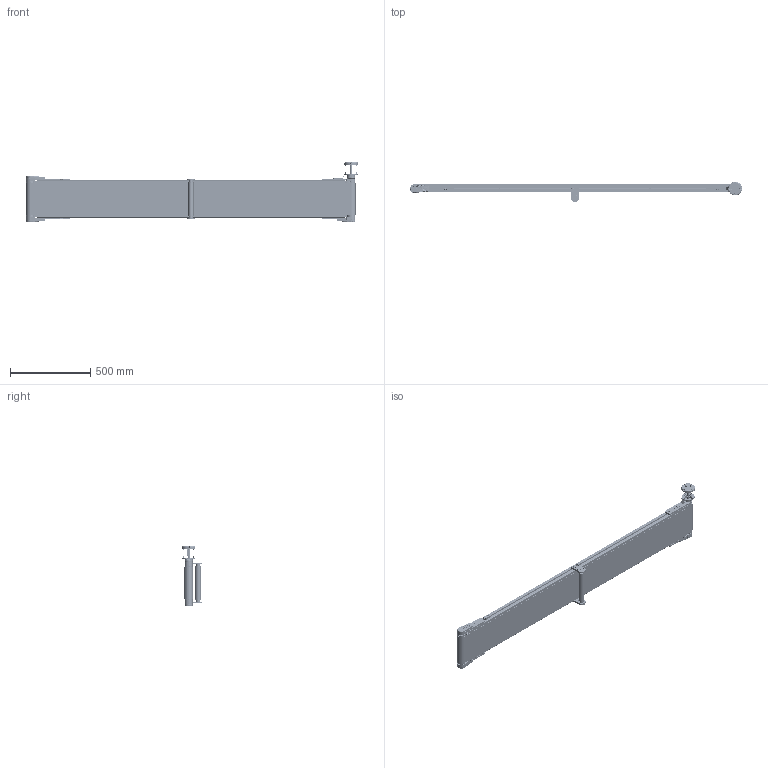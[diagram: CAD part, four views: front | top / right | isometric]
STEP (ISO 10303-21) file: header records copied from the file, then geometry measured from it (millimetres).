
FILE_DESCRIPTION (( 'STEP AP203' ), '1' );
FILE_NAME ('NASTRO_RETTILINEO_TAPPETO.step', '2026-06-05T08:06:31', ( 'Utente Windows' ), ( '' ), 'SwSTEP 2.0', 'SolidWorks 2024', '' );
FILE_SCHEMA (( 'CONFIG_CONTROL_DESIGN' ));
Length unit declared in the file: millimetre
Products named in the file (48): 084.303.001; 084.802.028; RONDELLE FASCIA LARGA UNI 6593_5.4x20 UNI 6593; 084.808.012; 084.810.001; 084.802.061; VITI TCEI UNI 5931_M6x12 UNI 5931; BLOCCO_RINVIO_50_STANDARD; VITI TCEI UNI 5931_M4x25 UNI 5931; RULLO_REGGITAPPETO; 084.811.001; VITE_DADO_M5X12; 084.802.014; 084.802.062; 084.807.002_084.807.002; VITI TSEI UNI 5933 INOX_0412UNI5933A2; LAMIERA_STANDARD; 084.807.003_084.807.003<A macchina>; 084.302.000 DADI ALUSIC 13x13-1_084.302.007; 084.802.017_084.802.017; 084.811.004; CHIAVETTE_A 5x5x20 UNI 6604-69; 084.802.065_Default<A macchina>; 084.302.000 DADI ALUSIC 13x13-1_084.302.004; BLOCCO_PERNO_50_30; 084.802.008; NASTRO_RETTILINEO_TAPPETO; 084.803.018; 14UNI7435; 084.301.000 VITI ALUSIC_084.301.003; 084.802.071; BLOCCO_TRAINO_50_STANDARD; BLOCCO_REGGITAPPETO; BLOCCO_TRAINO_50_STANDARD_30_DX; 0820ISO2342; 084.301.000 VITI ALUSIC_084.301.009; 084.302.000 DADI ALUSIC 13x13_084.302.004; TELAIO_50_STANDARD_Default<A macchina>; BLOCCO_BRACCIO_CH03P_VF30P; VITI TSEI UNI 5933_M4x10 UNI 5933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
Assembly tree (98 placements, depth 4):
  NASTRO_RETTILINEO_TAPPETO
    TAPPETO_STANDARD
    TELAIO_50_STANDARD_Default<A macchina>
    LAMIERA_STANDARD
    RULLO_50_Default<A macchina>  x2
    BLOCCO_PERNO_50_30
      084.810.001
      084.811.001
      RONDELLE FASCIA LARGA UNI 6593_5.4x20 UNI 6593
      084.301.000 VITI ALUSIC_084.301.009
      CHIAVETTE_A 5x5x40 UNI 6604-69
      CHIAVETTE_A 5x5x20 UNI 6604-69
      14UNI7435
    BLOCCO_TRAINO_50_STANDARD_30_DX
      084.807.003_084.807.003<A macchina>
      084.802.017_084.802.017
      084.301.000 VITI ALUSIC_084.301.003  x2
      084.302.000 DADI ALUSIC 13x13-1_084.302.004  x2
      BLOCCO_BRACCIO_CH03P_VF30P
        084.808.012
        084.802.062
        0820ISO2342
        084.802.061
        VITI TE UNI 5739_M6x16 UNI 5739  x4
        084.803.018
        VITI TCEI UNI 5931_M6x12 UNI 5931  x4
      084.802.065_Default<A macchina>
      VITI TCEI UNI 5931_M4x25 UNI 5931  x2
    BLOCCO_PERNO_50_RINVIO  x3
      084.811.004
      084.810.001
    BLOCCO_TRAINO_50_STANDARD
      084.807.002_084.807.002
      084.802.017_084.802.017
      084.301.000 VITI ALUSIC_084.301.003  x2
      084.302.000 DADI ALUSIC 13x13-1_084.302.004  x2
      084.802.071
      VITI TSEI UNI 5933 INOX_0412UNI5933A2  x2
    BLOCCO_RINVIO_50_STANDARD  x2
      084.807.002_084.807.002
      084.802.017_084.802.017
      084.802.008
      084.301.000 VITI ALUSIC_084.301.003
      084.302.000 DADI ALUSIC 13x13_084.302.004
      VITI TSEI UNI 5933_M4x10 UNI 5933
      084.802.071
    VITE_RONDELLA_M8X20  x7
      084.303.001
      084.301.000 VITI ALUSIC_084.301.003
    VITE_DADO_M5X12  x10
      084.302.000 DADI ALUSIC 13x13-1_084.302.007
      VITI TSEI UNI 5933_M5x12 UNI 5933
    BLOCCO_REGGITAPPETO  x2
      084.301.000 VITI ALUSIC_084.301.003
      084.302.000 DADI ALUSIC 13x13-1_084.302.004
      084.802.017_084.802.017
      084.802.028
      084.802.014
      084.802.013-2
    RULLO_REGGITAPPETO
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Bounding box: 2069.5 x 126.5 x 371.5 mm (x, y, z)
Volume: 6079467.8 mm3; surface area: 5856041.8 mm2
Topology: 150 solids, 156 shells, 7080 faces, 18487 edges, 11882 vertices
Faces by surface type: plane 3535, cylinder 1990, cone 597, bspline 519, torus 393, sphere 46
Entity records: 146622 total; most frequent: CARTESIAN_POINT 43461, ORIENTED_EDGE 21236, DIRECTION 19076, EDGE_CURVE 10618, VERTEX_POINT 6875, AXIS2_PLACEMENT_3D 6474, LINE 6128, VECTOR 6128
